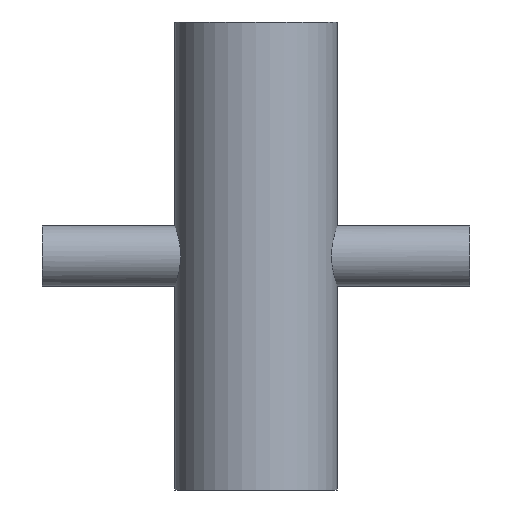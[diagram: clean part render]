
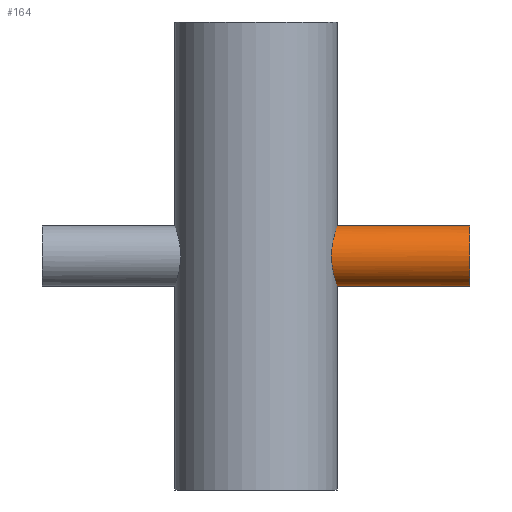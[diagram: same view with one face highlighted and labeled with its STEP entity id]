
A CAD part, front view. The second image highlights one B-rep face of the part: STEP entity #164.
In plain terms, the highlighted cylindrical face has radius 9.525 mm (diameter 19.05 mm), a partial arc.
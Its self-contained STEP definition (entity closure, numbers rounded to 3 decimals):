
#5 = VERTEX_POINT ( 'NONE', #828 ) ;
#11 = CARTESIAN_POINT ( 'NONE',  ( 23.787, -8.909, -3.384 ) ) ;
#37 = CARTESIAN_POINT ( 'NONE',  ( 24.61, -6.291, -7.158 ) ) ;
#44 = CARTESIAN_POINT ( 'NONE',  ( 24.023, -8.259, -4.786 ) ) ;
#45 = CYLINDRICAL_SURFACE ( 'NONE', #284, 9.525 ) ;
#62 = CARTESIAN_POINT ( 'NONE',  ( 23.546, -9.525, 0.302 ) ) ;
#77 = DIRECTION ( 'NONE',  ( 1., 0., 0. ) ) ;
#122 = CARTESIAN_POINT ( 'NONE',  ( 24.249, -7.561, 5.801 ) ) ;
#125 = CARTESIAN_POINT ( 'NONE',  ( 25.176, -3.38, -8.911 ) ) ;
#130 = CARTESIAN_POINT ( 'NONE',  ( 25.05, -4.243, -8.551 ) ) ;
#131 = CARTESIAN_POINT ( 'NONE',  ( 25.28, -2.481, -9.202 ) ) ;
#134 = CARTESIAN_POINT ( 'NONE',  ( 25.214, -3.083, -9.018 ) ) ;
#164 = ADVANCED_FACE ( 'NONE', ( #553 ), #45, .T. ) ;
#180 = CARTESIAN_POINT ( 'NONE',  ( 25.4, 0., 9.525 ) ) ;
#186 = EDGE_CURVE ( 'NONE', #5, #580, #805, .T. ) ;
#188 = CARTESIAN_POINT ( 'NONE',  ( 25.091, -3.958, 8.669 ) ) ;
#198 = CARTESIAN_POINT ( 'NONE',  ( 24.191, -7.745, 5.553 ) ) ;
#205 = CARTESIAN_POINT ( 'NONE',  ( 24.727, -5.812, -7.552 ) ) ;
#207 = DIRECTION ( 'NONE',  ( 1., 0., 0. ) ) ;
#219 = CARTESIAN_POINT ( 'NONE',  ( 25.308, -2.178, -9.278 ) ) ;
#231 = VERTEX_POINT ( 'NONE', #422 ) ;
#242 = CARTESIAN_POINT ( 'NONE',  ( -66.675, 0., 9.525 ) ) ;
#257 = CARTESIAN_POINT ( 'NONE',  ( 23.747, -9.015, -3.092 ) ) ;
#260 = CARTESIAN_POINT ( 'NONE',  ( 23.552, -9.51, 0.619 ) ) ;
#261 = LINE ( 'NONE', #306, #621 ) ;
#262 = ORIENTED_EDGE ( 'NONE', *, *, #329, .T. ) ;
#267 = CARTESIAN_POINT ( 'NONE',  ( 25.4, -0.318, 9.525 ) ) ;
#270 = CARTESIAN_POINT ( 'NONE',  ( 23.918, -8.554, 4.237 ) ) ;
#274 = CARTESIAN_POINT ( 'NONE',  ( 23.74, -9.036, 3.077 ) ) ;
#284 = AXIS2_PLACEMENT_3D ( 'NONE', #288, #77, #846 ) ;
#288 = CARTESIAN_POINT ( 'NONE',  ( -66.675, 0., 0. ) ) ;
#306 = CARTESIAN_POINT ( 'NONE',  ( -66.675, 0., -9.525 ) ) ;
#317 = CARTESIAN_POINT ( 'NONE',  ( 25.376, -1.259, -9.462 ) ) ;
#319 = CARTESIAN_POINT ( 'NONE',  ( 24.55, -6.519, -6.951 ) ) ;
#322 = CARTESIAN_POINT ( 'NONE',  ( 24.95, -4.788, -8.258 ) ) ;
#328 = VERTEX_POINT ( 'NONE', #753 ) ;
#329 = EDGE_CURVE ( 'NONE', #231, #328, #575, .T. ) ;
#332 = CARTESIAN_POINT ( 'NONE',  ( 23.919, -8.551, -4.241 ) ) ;
#383 = DIRECTION ( 'NONE',  ( -1., 0., 0. ) ) ;
#388 = ORIENTED_EDGE ( 'NONE', *, *, #481, .F. ) ;
#396 = CARTESIAN_POINT ( 'NONE',  ( 25.371, -1.263, 9.446 ) ) ;
#422 = CARTESIAN_POINT ( 'NONE',  ( 66.675, 0., -9.525 ) ) ;
#438 = CARTESIAN_POINT ( 'NONE',  ( 25.394, -0.634, 9.509 ) ) ;
#445 = CARTESIAN_POINT ( 'NONE',  ( 66.675, 0., 0. ) ) ;
#457 = CARTESIAN_POINT ( 'NONE',  ( 23.676, -9.198, -2.493 ) ) ;
#467 = CARTESIAN_POINT ( 'NONE',  ( 25.353, -1.578, 9.399 ) ) ;
#477 = ORIENTED_EDGE ( 'NONE', *, *, #662, .T. ) ;
#481 = EDGE_CURVE ( 'NONE', #580, #328, #854, .T. ) ;
#483 = AXIS2_PLACEMENT_3D ( 'NONE', #445, #383, #781 ) ;
#489 = EDGE_LOOP ( 'NONE', ( #388, #510, #477, #262 ) ) ;
#510 = ORIENTED_EDGE ( 'NONE', *, *, #186, .F. ) ;
#553 = FACE_OUTER_BOUND ( 'NONE', #489, .T. ) ;
#561 = CARTESIAN_POINT ( 'NONE',  ( 25.4, 0., 9.525 ) ) ;
#567 = CARTESIAN_POINT ( 'NONE',  ( 23.547, -9.524, -0.639 ) ) ;
#571 = CARTESIAN_POINT ( 'NONE',  ( 25.284, -2.505, 9.211 ) ) ;
#575 = CIRCLE ( 'NONE', #483, 9.525 ) ;
#578 = CARTESIAN_POINT ( 'NONE',  ( 25.217, -3.1, 9.028 ) ) ;
#580 = VERTEX_POINT ( 'NONE', #561 ) ;
#583 = CARTESIAN_POINT ( 'NONE',  ( 25.4, 0., -9.525 ) ) ;
#616 = VECTOR ( 'NONE', #207, 1000. ) ;
#618 = CARTESIAN_POINT ( 'NONE',  ( 23.669, -9.218, 2.48 ) ) ;
#621 = VECTOR ( 'NONE', #692, 1000. ) ;
#637 = CARTESIAN_POINT ( 'NONE',  ( 24.785, -5.561, -7.739 ) ) ;
#640 = CARTESIAN_POINT ( 'NONE',  ( 23.646, -9.276, -2.185 ) ) ;
#646 = CARTESIAN_POINT ( 'NONE',  ( 24.43, -6.957, 6.513 ) ) ;
#662 = EDGE_CURVE ( 'NONE', #5, #231, #261, .T. ) ;
#689 = CARTESIAN_POINT ( 'NONE',  ( 24.369, -7.167, 6.281 ) ) ;
#692 = DIRECTION ( 'NONE',  ( 1., 0., 0. ) ) ;
#733 = CARTESIAN_POINT ( 'NONE',  ( 24.946, -4.789, 8.239 ) ) ;
#745 = CARTESIAN_POINT ( 'NONE',  ( 24.022, -8.26, 4.783 ) ) ;
#753 = CARTESIAN_POINT ( 'NONE',  ( 66.675, 0., 9.525 ) ) ;
#757 = CARTESIAN_POINT ( 'NONE',  ( 24.61, -6.303, 7.168 ) ) ;
#773 = CARTESIAN_POINT ( 'NONE',  ( 25.045, -4.239, 8.535 ) ) ;
#775 = CARTESIAN_POINT ( 'NONE',  ( 24.371, -7.172, -6.299 ) ) ;
#779 = CARTESIAN_POINT ( 'NONE',  ( 24.893, -5.057, 8.077 ) ) ;
#781 = DIRECTION ( 'NONE',  ( 0., 0., -1. ) ) ;
#805 = B_SPLINE_CURVE_WITH_KNOTS ( 'NONE', 3,
 ( #583, #832, #317, #219, #131, #134, #125, #130, #322, #637, #205, #37, #319, #775, #848, #44, #332, #11, #257, #457, #640, #807, #567, #62, #260, #841, #843, #618, #274, #270, #745, #198, #122, #689, #646, #757, #837, #779, #733, #773, #188, #578, #571, #467, #396, #438, #267, #180 ),
 .UNSPECIFIED., .F., .F.,
 ( 4, 2, 2, 2, 2, 2, 2, 2, 2, 2, 2, 2, 2, 2, 2, 2, 2, 2, 2, 2, 2, 2, 2, 4 ),
 ( 0.03, 0.032, 0.033, 0.034, 0.036, 0.037, 0.038, 0.039, 0.041, 0.042, 0.043, 0.045, 0.046, 0.047, 0.049, 0.051, 0.052, 0.053, 0.054, 0.055, 0.056, 0.058, 0.059, 0.06 ),
 .UNSPECIFIED. ) ;
#807 = CARTESIAN_POINT ( 'NONE',  ( 23.572, -9.462, -1.261 ) ) ;
#828 = CARTESIAN_POINT ( 'NONE',  ( 25.4, 0., -9.525 ) ) ;
#832 = CARTESIAN_POINT ( 'NONE',  ( 25.4, -0.635, -9.525 ) ) ;
#837 = CARTESIAN_POINT ( 'NONE',  ( 24.728, -5.828, 7.559 ) ) ;
#841 = CARTESIAN_POINT ( 'NONE',  ( 23.577, -9.448, 1.249 ) ) ;
#843 = CARTESIAN_POINT ( 'NONE',  ( 23.596, -9.402, 1.56 ) ) ;
#846 = DIRECTION ( 'NONE',  ( 0., 0., -1. ) ) ;
#848 = CARTESIAN_POINT ( 'NONE',  ( 24.25, -7.564, -5.822 ) ) ;
#854 = LINE ( 'NONE', #242, #616 ) ;
